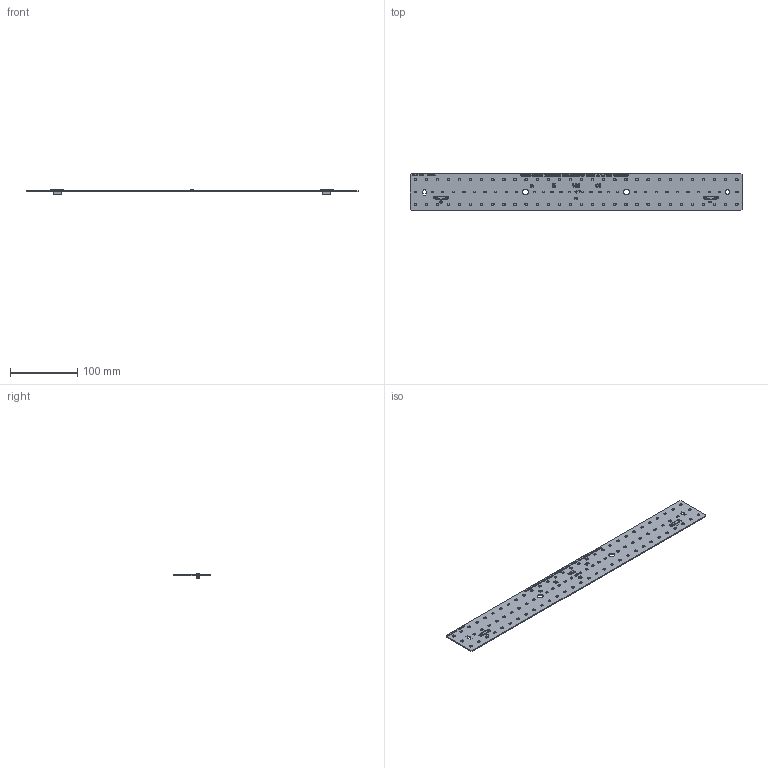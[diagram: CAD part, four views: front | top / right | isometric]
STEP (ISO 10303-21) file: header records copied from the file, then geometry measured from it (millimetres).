
FILE_DESCRIPTION(('Creo Elements/Direct Modeling STEP Export'),'2;1');
FILE_NAME('3D-Model_WU-M-754.stp','2025-02-05T12:21:24',(''),(''),'PTC Creo Elements/Direct Modeling STEP processor for AP214 (Solid Model)','PTC Creo Elements/Direct Modeling 19.0E 27-Jun-2016 (C) Parametric Technology GmbH','');
FILE_SCHEMA(('AUTOMOTIVE_DESIGN { 1 0 10303 214 1 1 1 1 }'));
Length unit declared in the file: millimetre
Products named in the file (152): Ploca-Text.62; Ploca-Text.66; Ploca-Text.67; Ploca-Text.63; Ploca-Text.61; Ploca-Text.58; Ploca-Text.64; Ploca-Text.59; Ploca-Text.68; Ploca-Text.60; Ploca-Text.65; Ploca-Text.70; Ploca-Text.69; Ploca-Text.72; Ploca-Text.74; Ploca-Text.78; Ploca-Text.77; Ploca-Text.73; Ploca-Text.79; Ploca-Text.75; Ploca-Text.76; Ploca-Text.71; Ploca-Text.3; Ploca-Text; Ploca-Text.4; Ploca-Text.2; Ploca-Text.1; Ploca-Text.40; Ploca-Text.38; Ploca-Text.44; Ploca-Text.43; Ploca-Text.45; Ploca-Text.46; Ploca-Text.41; Ploca-Text.39; Ploca-Text.42; Ploca-Text.30; Ploca-Text.31; Ploca-Text.37; Ploca-Text.32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
Assembly tree (203 placements, depth 4):
  ploca-text
    Ploca-Text.57
    Ploca-Text.50
    Ploca-Text.52
    Ploca-Text.51
    Ploca-Text.48
    Ploca-Text.55
    Ploca-Text.54
    Ploca-Text.53
    Ploca-Text.56
    Ploca-Text.49
    Ploca-Text.20
    Ploca-Text.23
    Ploca-Text.52.1
    Ploca-Text.24
    Ploca-Text.16
    Ploca-Text.17
    Ploca-Text.22
    Ploca-Text.21
    Ploca-Text.26
    Ploca-Text.19
    Ploca-Text.25
    Ploca-Text.106
    Ploca-Text.102
    Ploca-Text.103
    Ploca-Text.98
    Ploca-Text.104
    Ploca-Text.99
    Ploca-Text.100
    Ploca-Text.105
    Ploca-Text.101
    Ploca-Text.97
    Ploca-Text.96
    Ploca-Text.94
    Ploca-Text.95
    Ploca-Text.91
    Ploca-Text.93
    Ploca-Text.47
    Ploca-Text.7.1
    Ploca-Text.6
    Ploca-Text.5
    Ploca-Text.9
    Ploca-Text.15
    Ploca-Text.14
    Ploca-Text.11
    Ploca-Text.13
    Ploca-Text.10
    Ploca-Text.12
    Ploca-Text.8
    Ploca-Text.85
    Ploca-Text.83
    Ploca-Text.90
    Ploca-Text.81
    Ploca-Text.84
    Ploca-Text.89
    Ploca-Text.82
    Ploca-Text.88
    Ploca-Text.86
    Ploca-Text.87
    Ploca-Text.80
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Bounding box: 493 x 55 x 8.8 mm (x, y, z)
Volume: 43357.9 mm3; surface area: 60984.8 mm2
Topology: 111 solids, 561 shells, 15841 faces, 42372 edges, 27374 vertices
Faces by surface type: plane 12857, cylinder 2905, extrusion 55, sphere 12, cone 12
Entity records: 290211 total; most frequent: CARTESIAN_POINT 42216, ORIENTED_EDGE 39804, DIRECTION 36440, EDGE_CURVE 19774, VECTOR 16382, LINE 16327, VERTEX_POINT 12863, AXIS2_PLACEMENT_3D 10029
